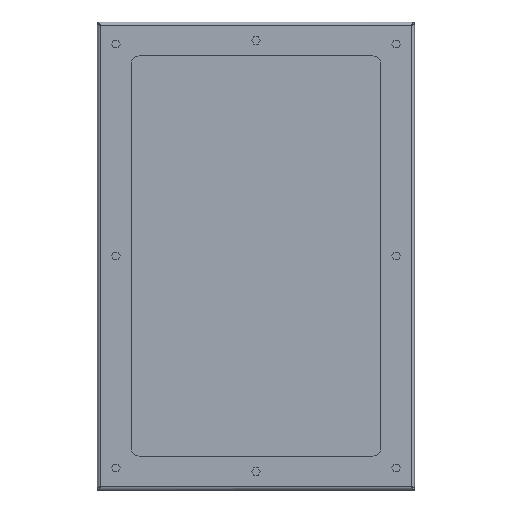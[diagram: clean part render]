
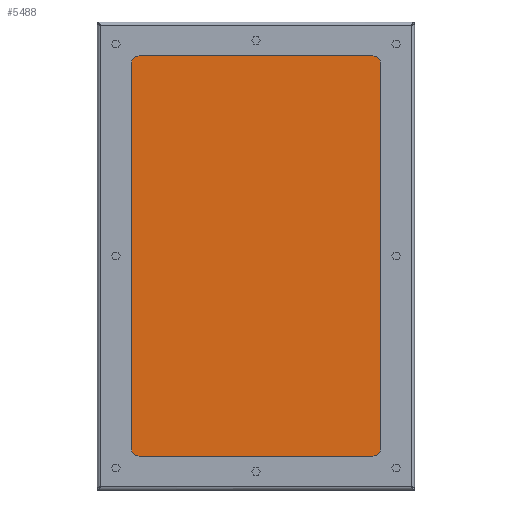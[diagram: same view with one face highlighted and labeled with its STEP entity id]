
A CAD part, top view. The second image highlights one B-rep face of the part: STEP entity #5488.
In plain terms, the highlighted planar face has unit normal (0, 0, 1).
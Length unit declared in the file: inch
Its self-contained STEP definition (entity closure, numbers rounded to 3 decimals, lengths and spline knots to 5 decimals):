
#4749=CARTESIAN_POINT('',(-5.065,7.565,0.11));
#4750=DIRECTION('',(0.,0.,1.));
#4751=DIRECTION('',(0.,1.,0.));
#4752=AXIS2_PLACEMENT_3D('',#4749,#4750,#4751);
#4757=DIRECTION('',(-1.,0.,0.));
#4758=VECTOR('',#4757,10.13);
#4759=CARTESIAN_POINT('',(5.065,7.625,0.11));
#4760=LINE('',#4759,#4758);
#4764=CARTESIAN_POINT('',(5.065,7.565,0.11));
#4765=DIRECTION('',(0.,0.,1.));
#4766=DIRECTION('',(1.,0.,0.));
#4767=AXIS2_PLACEMENT_3D('',#4764,#4765,#4766);
#4772=DIRECTION('',(0.,1.,0.));
#4773=VECTOR('',#4772,15.13);
#4774=CARTESIAN_POINT('',(5.125,-7.565,0.11));
#4775=LINE('',#4774,#4773);
#4779=CARTESIAN_POINT('',(5.065,-7.565,0.11));
#4780=DIRECTION('',(0.,0.,1.));
#4781=DIRECTION('',(0.,-1.,0.));
#4782=AXIS2_PLACEMENT_3D('',#4779,#4780,#4781);
#4787=DIRECTION('',(1.,0.,0.));
#4788=VECTOR('',#4787,10.13);
#4789=CARTESIAN_POINT('',(-5.065,-7.625,0.11));
#4790=LINE('',#4789,#4788);
#4794=CARTESIAN_POINT('',(-5.065,-7.565,0.11));
#4795=DIRECTION('',(0.,0.,1.));
#4796=DIRECTION('',(-1.,0.,0.));
#4797=AXIS2_PLACEMENT_3D('',#4794,#4795,#4796);
#4802=DIRECTION('',(0.,-1.,0.));
#4803=VECTOR('',#4802,15.13);
#4804=CARTESIAN_POINT('',(-5.125,7.565,0.11));
#4805=LINE('',#4804,#4803);
#4809=CARTESIAN_POINT('',(-4.64063,7.01975,0.11));
#4810=DIRECTION('',(0.,0.,1.));
#4811=DIRECTION('',(1.,0.,0.));
#4812=AXIS2_PLACEMENT_3D('',#4809,#4810,#4811);
#4817=CARTESIAN_POINT('',(-4.64063,7.01975,0.11));
#4818=DIRECTION('',(0.,0.,1.));
#4819=DIRECTION('',(-1.,0.,0.));
#4820=AXIS2_PLACEMENT_3D('',#4817,#4818,#4819);
#4825=CARTESIAN_POINT('',(4.64063,7.01975,0.11));
#4826=DIRECTION('',(0.,0.,1.));
#4827=DIRECTION('',(1.,0.,0.));
#4828=AXIS2_PLACEMENT_3D('',#4825,#4826,#4827);
#4833=CARTESIAN_POINT('',(4.64063,7.01975,0.11));
#4834=DIRECTION('',(0.,0.,1.));
#4835=DIRECTION('',(-1.,0.,0.));
#4836=AXIS2_PLACEMENT_3D('',#4833,#4834,#4835);
#4841=CARTESIAN_POINT('',(4.64063,-7.01975,0.11));
#4842=DIRECTION('',(0.,0.,1.));
#4843=DIRECTION('',(1.,0.,0.));
#4844=AXIS2_PLACEMENT_3D('',#4841,#4842,#4843);
#4849=CARTESIAN_POINT('',(4.64063,-7.01975,0.11));
#4850=DIRECTION('',(0.,0.,1.));
#4851=DIRECTION('',(-1.,0.,0.));
#4852=AXIS2_PLACEMENT_3D('',#4849,#4850,#4851);
#4857=CARTESIAN_POINT('',(-4.64063,-7.01975,0.11));
#4858=DIRECTION('',(0.,0.,1.));
#4859=DIRECTION('',(1.,0.,0.));
#4860=AXIS2_PLACEMENT_3D('',#4857,#4858,#4859);
#4865=CARTESIAN_POINT('',(-4.64063,-7.01975,0.11));
#4866=DIRECTION('',(0.,0.,1.));
#4867=DIRECTION('',(-1.,0.,0.));
#4868=AXIS2_PLACEMENT_3D('',#4865,#4866,#4867);
#4873=CARTESIAN_POINT('',(0.,7.14063,0.11));
#4874=DIRECTION('',(0.,0.,1.));
#4875=DIRECTION('',(1.,0.,0.));
#4876=AXIS2_PLACEMENT_3D('',#4873,#4874,#4875);
#4881=CARTESIAN_POINT('',(0.,7.14063,0.11));
#4882=DIRECTION('',(0.,0.,1.));
#4883=DIRECTION('',(-1.,0.,0.));
#4884=AXIS2_PLACEMENT_3D('',#4881,#4882,#4883);
#4889=CARTESIAN_POINT('',(0.,-7.14063,0.11));
#4890=DIRECTION('',(0.,0.,1.));
#4891=DIRECTION('',(1.,0.,0.));
#4892=AXIS2_PLACEMENT_3D('',#4889,#4890,#4891);
#4897=CARTESIAN_POINT('',(0.,-7.14063,0.11));
#4898=DIRECTION('',(0.,0.,1.));
#4899=DIRECTION('',(-1.,0.,0.));
#4900=AXIS2_PLACEMENT_3D('',#4897,#4898,#4899);
#4905=CARTESIAN_POINT('',(-4.64063,0.,0.11));
#4906=DIRECTION('',(0.,0.,1.));
#4907=DIRECTION('',(1.,0.,0.));
#4908=AXIS2_PLACEMENT_3D('',#4905,#4906,#4907);
#4913=CARTESIAN_POINT('',(-4.64063,0.,0.11));
#4914=DIRECTION('',(0.,0.,1.));
#4915=DIRECTION('',(-1.,0.,0.));
#4916=AXIS2_PLACEMENT_3D('',#4913,#4914,#4915);
#4921=CARTESIAN_POINT('',(4.64063,0.,0.11));
#4922=DIRECTION('',(0.,0.,1.));
#4923=DIRECTION('',(1.,0.,0.));
#4924=AXIS2_PLACEMENT_3D('',#4921,#4922,#4923);
#4929=CARTESIAN_POINT('',(4.64063,0.,0.11));
#4930=DIRECTION('',(0.,0.,1.));
#4931=DIRECTION('',(-1.,0.,0.));
#4932=AXIS2_PLACEMENT_3D('',#4929,#4930,#4931);
#5065=CARTESIAN_POINT('',(-4.50063,7.01975,0.11));
#5066=CARTESIAN_POINT('',(-4.78063,7.01975,0.11));
#5067=VERTEX_POINT('',#5065);
#5068=VERTEX_POINT('',#5066);
#5069=CARTESIAN_POINT('',(4.78063,7.01975,0.11));
#5070=CARTESIAN_POINT('',(4.50063,7.01975,0.11));
#5071=VERTEX_POINT('',#5069);
#5072=VERTEX_POINT('',#5070);
#5073=CARTESIAN_POINT('',(4.78063,-7.01975,0.11));
#5074=CARTESIAN_POINT('',(4.50063,-7.01975,0.11));
#5075=VERTEX_POINT('',#5073);
#5076=VERTEX_POINT('',#5074);
#5077=CARTESIAN_POINT('',(-4.50063,-7.01975,0.11));
#5078=CARTESIAN_POINT('',(-4.78063,-7.01975,0.11));
#5079=VERTEX_POINT('',#5077);
#5080=VERTEX_POINT('',#5078);
#5085=CARTESIAN_POINT('',(-5.065,7.625,0.11));
#5086=VERTEX_POINT('',#5085);
#5087=CARTESIAN_POINT('',(-5.125,7.565,0.11));
#5088=VERTEX_POINT('',#5087);
#5093=CARTESIAN_POINT('',(-5.125,-7.565,0.11));
#5094=VERTEX_POINT('',#5093);
#5095=CARTESIAN_POINT('',(-5.065,-7.625,0.11));
#5096=VERTEX_POINT('',#5095);
#5101=CARTESIAN_POINT('',(5.065,-7.625,0.11));
#5102=VERTEX_POINT('',#5101);
#5103=CARTESIAN_POINT('',(5.125,-7.565,0.11));
#5104=VERTEX_POINT('',#5103);
#5109=CARTESIAN_POINT('',(5.125,7.565,0.11));
#5110=VERTEX_POINT('',#5109);
#5111=CARTESIAN_POINT('',(5.065,7.625,0.11));
#5112=VERTEX_POINT('',#5111);
#5121=CARTESIAN_POINT('',(0.14,7.14063,0.11));
#5122=CARTESIAN_POINT('',(-0.14,7.14063,0.11));
#5123=VERTEX_POINT('',#5121);
#5124=VERTEX_POINT('',#5122);
#5125=CARTESIAN_POINT('',(0.14,-7.14063,0.11));
#5126=CARTESIAN_POINT('',(-0.14,-7.14063,0.11));
#5127=VERTEX_POINT('',#5125);
#5128=VERTEX_POINT('',#5126);
#5137=CARTESIAN_POINT('',(-4.50063,0.,0.11));
#5138=CARTESIAN_POINT('',(-4.78063,0.,0.11));
#5139=VERTEX_POINT('',#5137);
#5140=VERTEX_POINT('',#5138);
#5141=CARTESIAN_POINT('',(4.78063,0.,0.11));
#5142=CARTESIAN_POINT('',(4.50063,0.,0.11));
#5143=VERTEX_POINT('',#5141);
#5144=VERTEX_POINT('',#5142);
#5425=CARTESIAN_POINT('',(0.,0.,0.11));
#5426=DIRECTION('',(0.,0.,1.));
#5427=DIRECTION('',(1.,0.,0.));
#5428=AXIS2_PLACEMENT_3D('',#5425,#5426,#5427);
#5429=PLANE('',#5428);
#5430=ORIENTED_EDGE('',*,*,#5225,.F.);
#5431=ORIENTED_EDGE('',*,*,#5253,.F.);
#5432=ORIENTED_EDGE('',*,*,#5278,.F.);
#5433=ORIENTED_EDGE('',*,*,#5303,.F.);
#5434=ORIENTED_EDGE('',*,*,#5330,.F.);
#5435=ORIENTED_EDGE('',*,*,#5355,.F.);
#5436=ORIENTED_EDGE('',*,*,#5382,.F.);
#5437=ORIENTED_EDGE('',*,*,#5406,.F.);
#5438=EDGE_LOOP('',(#5430,#5431,#5432,#5433,#5434,#5435,#5436,#5437));
#5439=FACE_OUTER_BOUND('',#5438,.F.);
#5441=ORIENTED_EDGE('',*,*,#5440,.T.);
#5443=ORIENTED_EDGE('',*,*,#5442,.T.);
#5444=EDGE_LOOP('',(#5441,#5443));
#5445=FACE_BOUND('',#5444,.F.);
#5447=ORIENTED_EDGE('',*,*,#5446,.T.);
#5449=ORIENTED_EDGE('',*,*,#5448,.T.);
#5450=EDGE_LOOP('',(#5447,#5449));
#5451=FACE_BOUND('',#5450,.F.);
#5453=ORIENTED_EDGE('',*,*,#5452,.T.);
#5455=ORIENTED_EDGE('',*,*,#5454,.T.);
#5456=EDGE_LOOP('',(#5453,#5455));
#5457=FACE_BOUND('',#5456,.F.);
#5459=ORIENTED_EDGE('',*,*,#5458,.T.);
#5461=ORIENTED_EDGE('',*,*,#5460,.T.);
#5462=EDGE_LOOP('',(#5459,#5461));
#5463=FACE_BOUND('',#5462,.F.);
#5465=ORIENTED_EDGE('',*,*,#5464,.T.);
#5467=ORIENTED_EDGE('',*,*,#5466,.T.);
#5468=EDGE_LOOP('',(#5465,#5467));
#5469=FACE_BOUND('',#5468,.F.);
#5471=ORIENTED_EDGE('',*,*,#5470,.T.);
#5473=ORIENTED_EDGE('',*,*,#5472,.T.);
#5474=EDGE_LOOP('',(#5471,#5473));
#5475=FACE_BOUND('',#5474,.F.);
#5477=ORIENTED_EDGE('',*,*,#5476,.T.);
#5479=ORIENTED_EDGE('',*,*,#5478,.T.);
#5480=EDGE_LOOP('',(#5477,#5479));
#5481=FACE_BOUND('',#5480,.F.);
#5483=ORIENTED_EDGE('',*,*,#5482,.T.);
#5485=ORIENTED_EDGE('',*,*,#5484,.T.);
#5486=EDGE_LOOP('',(#5483,#5485));
#5487=FACE_BOUND('',#5486,.F.);
#4753=CIRCLE('',#4752,0.06);
#4768=CIRCLE('',#4767,0.06);
#4783=CIRCLE('',#4782,0.06);
#4798=CIRCLE('',#4797,0.06);
#4813=CIRCLE('',#4812,0.14);
#4821=CIRCLE('',#4820,0.14);
#4829=CIRCLE('',#4828,0.14);
#4837=CIRCLE('',#4836,0.14);
#4845=CIRCLE('',#4844,0.14);
#4853=CIRCLE('',#4852,0.14);
#4861=CIRCLE('',#4860,0.14);
#4869=CIRCLE('',#4868,0.14);
#4877=CIRCLE('',#4876,0.14);
#4885=CIRCLE('',#4884,0.14);
#4893=CIRCLE('',#4892,0.14);
#4901=CIRCLE('',#4900,0.14);
#4909=CIRCLE('',#4908,0.14);
#4917=CIRCLE('',#4916,0.14);
#4925=CIRCLE('',#4924,0.14);
#4933=CIRCLE('',#4932,0.14);
#5225=EDGE_CURVE('',#5086,#5088,#4753,.T.);
#5253=EDGE_CURVE('',#5112,#5086,#4760,.T.);
#5278=EDGE_CURVE('',#5110,#5112,#4768,.T.);
#5303=EDGE_CURVE('',#5104,#5110,#4775,.T.);
#5330=EDGE_CURVE('',#5102,#5104,#4783,.T.);
#5355=EDGE_CURVE('',#5096,#5102,#4790,.T.);
#5382=EDGE_CURVE('',#5094,#5096,#4798,.T.);
#5406=EDGE_CURVE('',#5088,#5094,#4805,.T.);
#5440=EDGE_CURVE('',#5067,#5068,#4813,.T.);
#5442=EDGE_CURVE('',#5068,#5067,#4821,.T.);
#5446=EDGE_CURVE('',#5071,#5072,#4829,.T.);
#5448=EDGE_CURVE('',#5072,#5071,#4837,.T.);
#5452=EDGE_CURVE('',#5075,#5076,#4845,.T.);
#5454=EDGE_CURVE('',#5076,#5075,#4853,.T.);
#5458=EDGE_CURVE('',#5079,#5080,#4861,.T.);
#5460=EDGE_CURVE('',#5080,#5079,#4869,.T.);
#5464=EDGE_CURVE('',#5123,#5124,#4877,.T.);
#5466=EDGE_CURVE('',#5124,#5123,#4885,.T.);
#5470=EDGE_CURVE('',#5127,#5128,#4893,.T.);
#5472=EDGE_CURVE('',#5128,#5127,#4901,.T.);
#5476=EDGE_CURVE('',#5139,#5140,#4909,.T.);
#5478=EDGE_CURVE('',#5140,#5139,#4917,.T.);
#5482=EDGE_CURVE('',#5143,#5144,#4925,.T.);
#5484=EDGE_CURVE('',#5144,#5143,#4933,.T.);
#5488=ADVANCED_FACE('',(#5439,#5445,#5451,#5457,#5463,#5469,#5475,#5481,#5487),
#5429,.T.);
